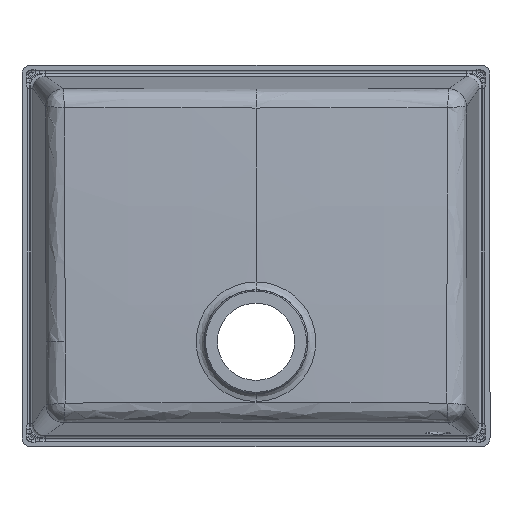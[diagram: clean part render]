
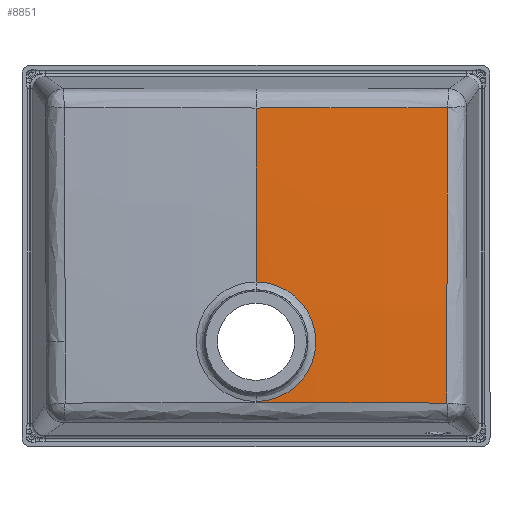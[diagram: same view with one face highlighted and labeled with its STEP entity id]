
A CAD part, front view. The second image highlights one B-rep face of the part: STEP entity #8851.
In plain terms, the highlighted free-form (B-spline) face has degree [3, 3] with [4, 4] control points.
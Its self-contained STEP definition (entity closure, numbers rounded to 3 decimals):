
#350 = CARTESIAN_POINT ( 'NONE',  ( 285., -209.143, -291.819 ) ) ;
#375 = ORIENTED_EDGE ( 'NONE', *, *, #4609, .T. ) ;
#491 = DIRECTION ( 'NONE',  ( 0., 1., 0. ) ) ;
#497 = CIRCLE ( 'NONE', #8048, 4958.198 ) ;
#827 = CARTESIAN_POINT ( 'NONE',  ( 285., -200.733, -64.371 ) ) ;
#1118 = CARTESIAN_POINT ( 'NONE',  ( 359.253, -209.143, -291.819 ) ) ;
#1394 = EDGE_CURVE ( 'NONE', #9166, #3731, #497, .T. ) ;
#1505 = CARTESIAN_POINT ( 'NONE',  ( 938.047, 4742.866, -334.07 ) ) ;
#1681 = AXIS2_PLACEMENT_3D ( 'NONE', #1739, #5787, #5898 ) ;
#1739 = CARTESIAN_POINT ( 'NONE',  ( 285., 4800., -334.07 ) ) ;
#1880 = CARTESIAN_POINT ( 'NONE',  ( 285., -200.599, -61.899 ) ) ;
#2079 = DIRECTION ( 'NONE',  ( -1., 0., 0. ) ) ;
#2155 = CIRCLE ( 'NONE', #8708, 4964.91 ) ;
#2241 = ORIENTED_EDGE ( 'NONE', *, *, #8456, .T. ) ;
#2371 = CARTESIAN_POINT ( 'NONE',  ( 505.967, -195.825, -63.942 ) ) ;
#2501 = ORIENTED_EDGE ( 'NONE', *, *, #4703, .F. ) ;
#2663 = DIRECTION ( 'NONE',  ( 0., -0.087, -0.996 ) ) ;
#2823 = CARTESIAN_POINT ( 'NONE',  ( 359.228, -207.471, -406.864 ) ) ;
#2845 = ORIENTED_EDGE ( 'NONE', *, *, #10769, .F. ) ;
#3205 = CIRCLE ( 'NONE', #7804, 4982.322 ) ;
#3528 = CARTESIAN_POINT ( 'NONE',  ( 433.42, -205.202, -176.786 ) ) ;
#3731 = VERTEX_POINT ( 'NONE', #827 ) ;
#3746 = DIRECTION ( 'NONE',  ( 0., 0., 1. ) ) ;
#3986 = EDGE_CURVE ( 'NONE', #7746, #9262, #6080, .T. ) ;
#4374 = CARTESIAN_POINT ( 'NONE',  ( 507.565, -201.902, -176.786 ) ) ;
#4498 = FACE_OUTER_BOUND ( 'NONE', #8045, .T. ) ;
#4514 = CARTESIAN_POINT ( 'NONE',  ( 359.126, -200.599, -61.899 ) ) ;
#4609 = EDGE_CURVE ( 'NONE', #5599, #9166, #2155, .T. ) ;
#4627 = CARTESIAN_POINT ( 'NONE',  ( 505.37, -202.649, -404.818 ) ) ;
#4695 = ORIENTED_EDGE ( 'NONE', *, *, #3986, .F. ) ;
#4703 = EDGE_CURVE ( 'NONE', #5599, #7746, #3205, .T. ) ;
#4823 = DIRECTION ( 'NONE',  ( -0.996, 0.087, 0. ) ) ;
#5163 = CARTESIAN_POINT ( 'NONE',  ( 507.593, -202.521, -406.864 ) ) ;
#5258 = CARTESIAN_POINT ( 'NONE',  ( 285., 4755.857, -838.631 ) ) ;
#5396 = CARTESIAN_POINT ( 'NONE',  ( 285., 4800., -334.07 ) ) ;
#5599 = VERTEX_POINT ( 'NONE', #4627 ) ;
#5787 = DIRECTION ( 'NONE',  ( -1., 0., 0. ) ) ;
#5791 = CIRCLE ( 'NONE', #9629, 68.952 ) ;
#5897 = CIRCLE ( 'NONE', #8598, 5008. ) ;
#5898 = DIRECTION ( 'NONE',  ( 0., 0., -1. ) ) ;
#6080 = CIRCLE ( 'NONE', #1681, 5008. ) ;
#6143 = ORIENTED_EDGE ( 'NONE', *, *, #1394, .T. ) ;
#6491 = VERTEX_POINT ( 'NONE', #6606 ) ;
#6606 = CARTESIAN_POINT ( 'NONE',  ( 285., -207.525, -265.118 ) ) ;
#6767 = CARTESIAN_POINT ( 'NONE',  ( 285., -207.525, -403.022 ) ) ;
#6945 = DIRECTION ( 'NONE',  ( 0., 0.996, -0.087 ) ) ;
#7002 = CARTESIAN_POINT ( 'NONE',  ( 285., -206.852, -176.786 ) ) ;
#7050 = CARTESIAN_POINT ( 'NONE',  ( 285., -207.506, -404.393 ) ) ;
#7731 = CARTESIAN_POINT ( 'NONE',  ( 507.667, -204.192, -291.819 ) ) ;
#7746 = VERTEX_POINT ( 'NONE', #7050 ) ;
#7801 = CARTESIAN_POINT ( 'NONE',  ( 433.234, -198.951, -61.899 ) ) ;
#7804 = AXIS2_PLACEMENT_3D ( 'NONE', #5258, #2663, #6945 ) ;
#7871 = CARTESIAN_POINT ( 'NONE',  ( 285., 4738.597, 367.764 ) ) ;
#8045 = EDGE_LOOP ( 'NONE', ( #4695, #2501, #375, #6143, #2845, #2241 ) ) ;
#8048 = AXIS2_PLACEMENT_3D ( 'NONE', #7871, #8779, #9642 ) ;
#8456 = EDGE_CURVE ( 'NONE', #6491, #9262, #5791, .T. ) ;
#8598 = AXIS2_PLACEMENT_3D ( 'NONE', #5396, #2079, #10358 ) ;
#8599 = CARTESIAN_POINT ( 'NONE',  ( 433.488, -207.493, -291.819 ) ) ;
#8708 = AXIS2_PLACEMENT_3D ( 'NONE', #1505, #4823, #9777 ) ;
#8779 = DIRECTION ( 'NONE',  ( 0., 0.087, -0.996 ) ) ;
#8851 = ADVANCED_FACE ( 'NONE', ( #4498 ), #10246, .T. ) ;
#9166 = VERTEX_POINT ( 'NONE', #2371 ) ;
#9262 = VERTEX_POINT ( 'NONE', #6767 ) ;
#9398 = CARTESIAN_POINT ( 'NONE',  ( 285., -207.471, -406.864 ) ) ;
#9434 = CARTESIAN_POINT ( 'NONE',  ( 433.438, -205.821, -406.864 ) ) ;
#9466 = CARTESIAN_POINT ( 'NONE',  ( 507.287, -195.656, -61.899 ) ) ;
#9503 = CARTESIAN_POINT ( 'NONE',  ( 359.219, -206.852, -176.786 ) ) ;
#9629 = AXIS2_PLACEMENT_3D ( 'NONE', #10374, #491, #3746 ) ;
#9642 = DIRECTION ( 'NONE',  ( 0., -0.996, -0.087 ) ) ;
#9777 = DIRECTION ( 'NONE',  ( 0.087, 0.996, 0. ) ) ;
#10246 =( BOUNDED_SURFACE ( )  B_SPLINE_SURFACE ( 3, 3, ( 
 ( #5163, #9434, #2823, #9398 ),
 ( #7731, #8599, #1118, #350 ),
 ( #4374, #3528, #9503, #7002 ),
 ( #9466, #7801, #4514, #1880 ) ),
 .UNSPECIFIED., .F., .F., .F. ) 
 B_SPLINE_SURFACE_WITH_KNOTS ( ( 4, 4 ),
 ( 4, 4 ),
 ( 0., 1. ),
 ( 0., 1. ),
 .UNSPECIFIED. ) 
 GEOMETRIC_REPRESENTATION_ITEM ( )  RATIONAL_B_SPLINE_SURFACE ( (
 ( 1., 1., 1., 1.),
 ( 1., 0.999, 0.999, 1.),
 ( 1., 0.999, 0.999, 1.),
 ( 1., 1., 1., 1.) ) ) 
 REPRESENTATION_ITEM ( '' )  SURFACE ( )  );
#10358 = DIRECTION ( 'NONE',  ( 0., 0., -1. ) ) ;
#10374 = CARTESIAN_POINT ( 'NONE',  ( 285., -207.525, -334.07 ) ) ;
#10769 = EDGE_CURVE ( 'NONE', #6491, #3731, #5897, .T. ) ;
